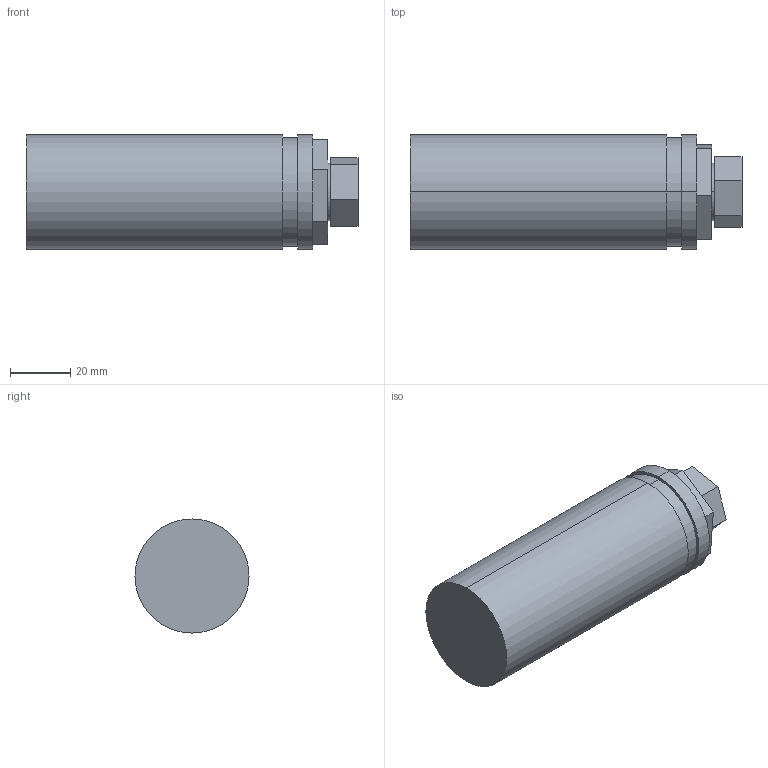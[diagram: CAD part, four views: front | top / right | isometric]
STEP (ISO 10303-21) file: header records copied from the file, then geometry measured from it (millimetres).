
FILE_DESCRIPTION (( 'STEP AP214' ), '1' );
FILE_NAME ('BR601.16 EGB 26.STEP', '2020-12-02T13:35:19', ( '' ), ( '' ), 'SwSTEP 2.0', 'SolidWorks 2018', '' );
FILE_SCHEMA (( 'AUTOMOTIVE_DESIGN' ));
Length unit declared in the file: millimetre
Products named in the file (1): BR601.16 EGB 26
Bounding box: 110.5 x 38 x 38 mm (x, y, z)
Volume: 115383.8 mm3; surface area: 15293 mm2
Topology: 1 solids, 1 shells, 27 faces, 60 edges, 40 vertices
Faces by surface type: plane 19, cylinder 8
Entity records: 784 total; most frequent: DIRECTION 132, CARTESIAN_POINT 128, ORIENTED_EDGE 120, EDGE_CURVE 60, VECTOR 44, LINE 44, AXIS2_PLACEMENT_3D 44, VERTEX_POINT 40
